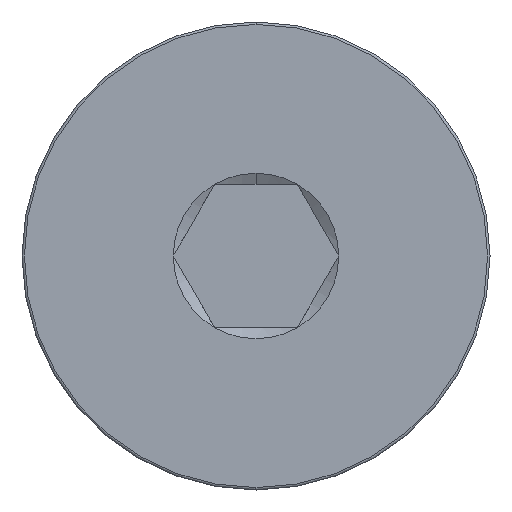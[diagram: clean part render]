
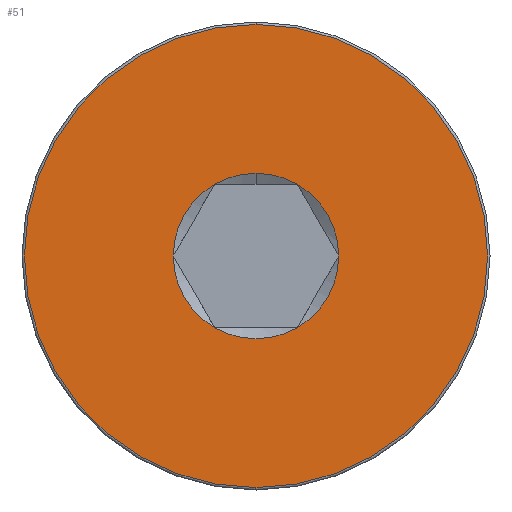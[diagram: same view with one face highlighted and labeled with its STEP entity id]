
A CAD part, left-side view. The second image highlights one B-rep face of the part: STEP entity #51.
In plain terms, the highlighted planar face has unit normal (-1, 0, 0).
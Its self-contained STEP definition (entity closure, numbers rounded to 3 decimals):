
#2 = AXIS2_PLACEMENT_3D ( 'NONE', #665, #246, #671 ) ;
#11 = ORIENTED_EDGE ( 'NONE', *, *, #294, .T. ) ;
#33 = CIRCLE ( 'NONE', #454, 1.732 ) ;
#45 = DIRECTION ( 'NONE',  ( 1., 0., 0. ) ) ;
#47 = DIRECTION ( 'NONE',  ( 0., 0., -1. ) ) ;
#51 = ADVANCED_FACE ( 'NONE', ( #681, #126 ), #601, .T. ) ;
#57 = DIRECTION ( 'NONE',  ( 0., 0., -1. ) ) ;
#65 = CARTESIAN_POINT ( 'NONE',  ( 0., -0.866, -1.5 ) ) ;
#66 = CARTESIAN_POINT ( 'NONE',  ( 0., 0., 4.85 ) ) ;
#89 = VERTEX_POINT ( 'NONE', #66 ) ;
#93 = EDGE_LOOP ( 'NONE', ( #215, #307, #630, #155, #570, #351, #11 ) ) ;
#98 = CARTESIAN_POINT ( 'NONE',  ( 0., 0., 0. ) ) ;
#112 = DIRECTION ( 'NONE',  ( 0., 0., 1. ) ) ;
#119 = EDGE_CURVE ( 'NONE', #206, #659, #191, .T. ) ;
#126 = FACE_BOUND ( 'NONE', #93, .T. ) ;
#132 = ORIENTED_EDGE ( 'NONE', *, *, #257, .T. ) ;
#142 = AXIS2_PLACEMENT_3D ( 'NONE', #239, #295, #548 ) ;
#145 = VERTEX_POINT ( 'NONE', #209 ) ;
#155 = ORIENTED_EDGE ( 'NONE', *, *, #273, .T. ) ;
#160 = DIRECTION ( 'NONE',  ( 0., 0., -1. ) ) ;
#161 = ORIENTED_EDGE ( 'NONE', *, *, #222, .T. ) ;
#165 = VERTEX_POINT ( 'NONE', #393 ) ;
#166 = AXIS2_PLACEMENT_3D ( 'NONE', #706, #592, #112 ) ;
#176 = DIRECTION ( 'NONE',  ( 1., 0., 0. ) ) ;
#191 = CIRCLE ( 'NONE', #440, 1.732 ) ;
#206 = VERTEX_POINT ( 'NONE', #573 ) ;
#207 = VERTEX_POINT ( 'NONE', #756 ) ;
#209 = CARTESIAN_POINT ( 'NONE',  ( 0., 0., -4.85 ) ) ;
#215 = ORIENTED_EDGE ( 'NONE', *, *, #119, .T. ) ;
#216 = CIRCLE ( 'NONE', #166, 4.85 ) ;
#222 = EDGE_CURVE ( 'NONE', #89, #145, #714, .T. ) ;
#234 = DIRECTION ( 'NONE',  ( 0., 0., -1. ) ) ;
#239 = CARTESIAN_POINT ( 'NONE',  ( 0., 0., 0. ) ) ;
#246 = DIRECTION ( 'NONE',  ( -1., 0., 0. ) ) ;
#251 = CARTESIAN_POINT ( 'NONE',  ( 0., 0., 0. ) ) ;
#257 = EDGE_CURVE ( 'NONE', #145, #89, #216, .T. ) ;
#261 = CIRCLE ( 'NONE', #764, 1.732 ) ;
#264 = AXIS2_PLACEMENT_3D ( 'NONE', #98, #45, #466 ) ;
#273 = EDGE_CURVE ( 'NONE', #207, #165, #430, .T. ) ;
#279 = CIRCLE ( 'NONE', #264, 1.732 ) ;
#294 = EDGE_CURVE ( 'NONE', #472, #206, #279, .T. ) ;
#295 = DIRECTION ( 'NONE',  ( 1., 0., 0. ) ) ;
#303 = EDGE_CURVE ( 'NONE', #165, #373, #33, .T. ) ;
#307 = ORIENTED_EDGE ( 'NONE', *, *, #384, .T. ) ;
#351 = ORIENTED_EDGE ( 'NONE', *, *, #771, .T. ) ;
#373 = VERTEX_POINT ( 'NONE', #65 ) ;
#384 = EDGE_CURVE ( 'NONE', #659, #396, #725, .T. ) ;
#393 = CARTESIAN_POINT ( 'NONE',  ( 0., -1.732, 0. ) ) ;
#395 = EDGE_CURVE ( 'NONE', #396, #207, #551, .T. ) ;
#396 = VERTEX_POINT ( 'NONE', #427 ) ;
#427 = CARTESIAN_POINT ( 'NONE',  ( 0., 0., 1.732 ) ) ;
#430 = CIRCLE ( 'NONE', #738, 1.732 ) ;
#440 = AXIS2_PLACEMENT_3D ( 'NONE', #251, #176, #57 ) ;
#444 = DIRECTION ( 'NONE',  ( 0., 0., 1. ) ) ;
#453 = DIRECTION ( 'NONE',  ( 1., 0., 0. ) ) ;
#454 = AXIS2_PLACEMENT_3D ( 'NONE', #584, #773, #160 ) ;
#461 = CARTESIAN_POINT ( 'NONE',  ( 0., 0.866, 1.5 ) ) ;
#462 = CARTESIAN_POINT ( 'NONE',  ( 0., 0., 0. ) ) ;
#466 = DIRECTION ( 'NONE',  ( 0., 0., -1. ) ) ;
#472 = VERTEX_POINT ( 'NONE', #663 ) ;
#478 = DIRECTION ( 'NONE',  ( 0., 0., -1. ) ) ;
#490 = DIRECTION ( 'NONE',  ( 1., 0., 0. ) ) ;
#548 = DIRECTION ( 'NONE',  ( 0., 0., -1. ) ) ;
#551 = CIRCLE ( 'NONE', #652, 1.732 ) ;
#570 = ORIENTED_EDGE ( 'NONE', *, *, #303, .T. ) ;
#573 = CARTESIAN_POINT ( 'NONE',  ( 0., 1.732, 0. ) ) ;
#584 = CARTESIAN_POINT ( 'NONE',  ( 0., 0., 0. ) ) ;
#592 = DIRECTION ( 'NONE',  ( -1., 0., 0. ) ) ;
#601 = PLANE ( 'NONE',  #2 ) ;
#610 = CARTESIAN_POINT ( 'NONE',  ( 0., 0., 0. ) ) ;
#630 = ORIENTED_EDGE ( 'NONE', *, *, #395, .T. ) ;
#633 = CARTESIAN_POINT ( 'NONE',  ( 0., 0., 0. ) ) ;
#652 = AXIS2_PLACEMENT_3D ( 'NONE', #722, #781, #234 ) ;
#659 = VERTEX_POINT ( 'NONE', #461 ) ;
#663 = CARTESIAN_POINT ( 'NONE',  ( 0., 0.866, -1.5 ) ) ;
#665 = CARTESIAN_POINT ( 'NONE',  ( 0., 0., 0. ) ) ;
#667 = EDGE_LOOP ( 'NONE', ( #161, #132 ) ) ;
#671 = DIRECTION ( 'NONE',  ( 0., 0., 1. ) ) ;
#681 = FACE_OUTER_BOUND ( 'NONE', #667, .T. ) ;
#706 = CARTESIAN_POINT ( 'NONE',  ( 0., 0., 0. ) ) ;
#714 = CIRCLE ( 'NONE', #780, 4.85 ) ;
#722 = CARTESIAN_POINT ( 'NONE',  ( 0., 0., 0. ) ) ;
#725 = CIRCLE ( 'NONE', #142, 1.732 ) ;
#738 = AXIS2_PLACEMENT_3D ( 'NONE', #462, #453, #47 ) ;
#744 = DIRECTION ( 'NONE',  ( -1., 0., 0. ) ) ;
#756 = CARTESIAN_POINT ( 'NONE',  ( 0., -0.866, 1.5 ) ) ;
#764 = AXIS2_PLACEMENT_3D ( 'NONE', #610, #490, #478 ) ;
#771 = EDGE_CURVE ( 'NONE', #373, #472, #261, .T. ) ;
#773 = DIRECTION ( 'NONE',  ( 1., 0., 0. ) ) ;
#780 = AXIS2_PLACEMENT_3D ( 'NONE', #633, #744, #444 ) ;
#781 = DIRECTION ( 'NONE',  ( 1., 0., 0. ) ) ;
